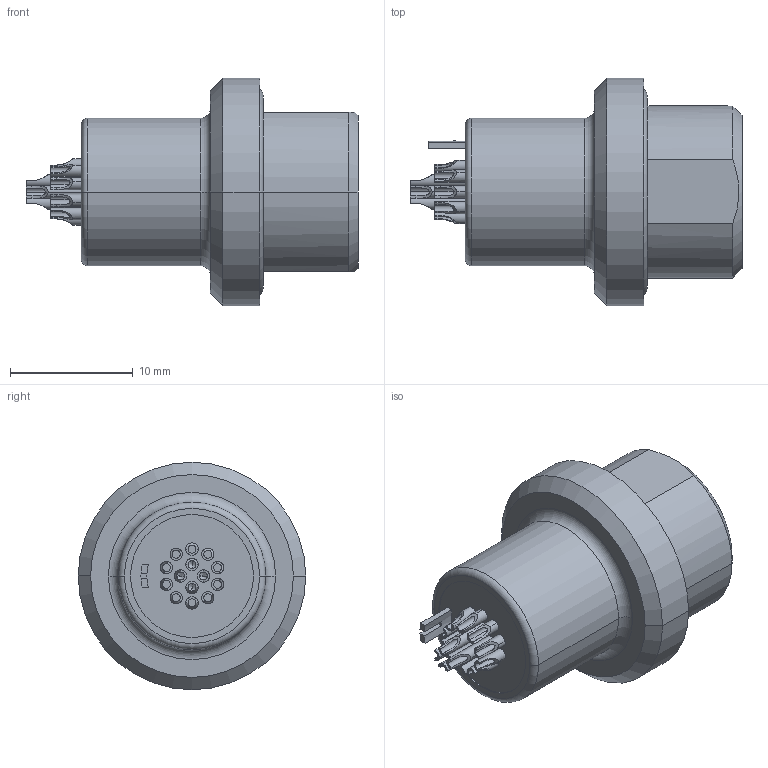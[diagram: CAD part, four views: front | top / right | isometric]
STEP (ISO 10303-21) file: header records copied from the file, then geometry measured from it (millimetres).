
FILE_DESCRIPTION((''),'2;1');
FILE_NAME('G81Y_R-P14WCD0-000L_WITHOUT_HEX','2020-10-22T07:59:45',('EUnterhaslberger'),(''),'CREO PARAMETRIC BY PTC INC, 2018300','CREO PARAMETRIC BY PTC INC, 2018300','');
FILE_SCHEMA(('AP242_MANAGED_MODEL_BASED_3D_ENGINEERING_MIM_LF { 1 0 10303 442 1 1 4 }'));
Length unit declared in the file: millimetre
Products named in the file (1): G81Y_R-P14WCD0-000L_WITHOUT_HEX
Bounding box: 27 x 18.5 x 18.5 mm (x, y, z)
Volume: 2894.5 mm3; surface area: 2677.5 mm2
Topology: 2 solids, 2 shells, 297 faces, 760 edges, 495 vertices
Faces by surface type: cylinder 109, plane 108, cone 49, torus 30, sphere 1
Entity records: 11961 total; most frequent: CARTESIAN_POINT 2558, DIRECTION 1578, ORIENTED_EDGE 1504, EDGE_CURVE 752, AXIS2_PLACEMENT_3D 621, VERTEX_POINT 495, VECTOR 336, LINE 336
